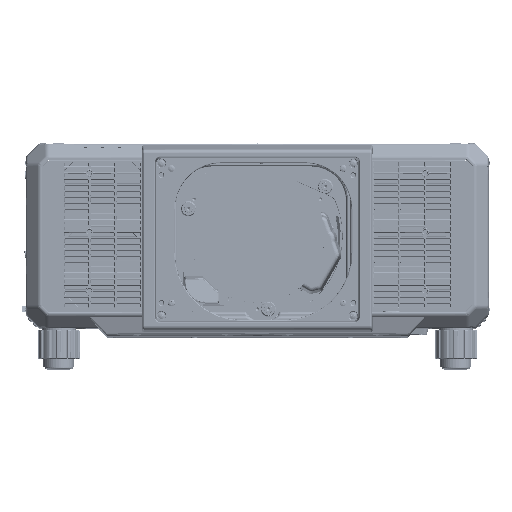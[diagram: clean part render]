
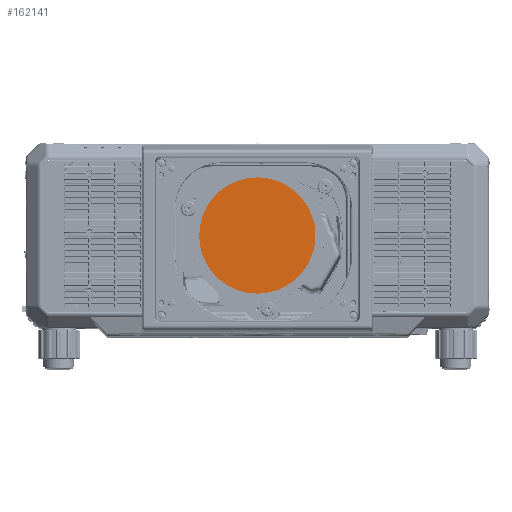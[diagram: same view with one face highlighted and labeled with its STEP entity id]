
A CAD part, top view. The second image highlights one B-rep face of the part: STEP entity #162141.
In plain terms, the highlighted planar face has unit normal (0, 0, 1).
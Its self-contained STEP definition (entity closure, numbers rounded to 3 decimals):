
#97536=CIRCLE('',#359116,69.1);
#162141=ADVANCED_FACE('',(#177271),#167431,.T.);
#167431=PLANE('',#359119);
#177271=FACE_OUTER_BOUND('',#189269,.T.);
#189269=EDGE_LOOP('',(#245460));
#245460=ORIENTED_EDGE('',*,*,#329146,.F.);
#283214=VERTEX_POINT('',#564472);
#329146=EDGE_CURVE('',#283214,#283214,#97536,.T.);
#359116=AXIS2_PLACEMENT_3D('',#564471,#435262,#435263);
#359119=AXIS2_PLACEMENT_3D('',#564476,#435268,#435269);
#435262=DIRECTION('',(0.,0.,-1.));
#435263=DIRECTION('',(0.,1.,0.));
#435268=DIRECTION('',(0.,0.,1.));
#435269=DIRECTION('',(1.,0.,0.));
#564471=CARTESIAN_POINT('',(0.,0.,
446.146));
#564472=CARTESIAN_POINT('',(0.,69.1,446.146));
#564476=CARTESIAN_POINT('',(0.,0.,
446.146));
